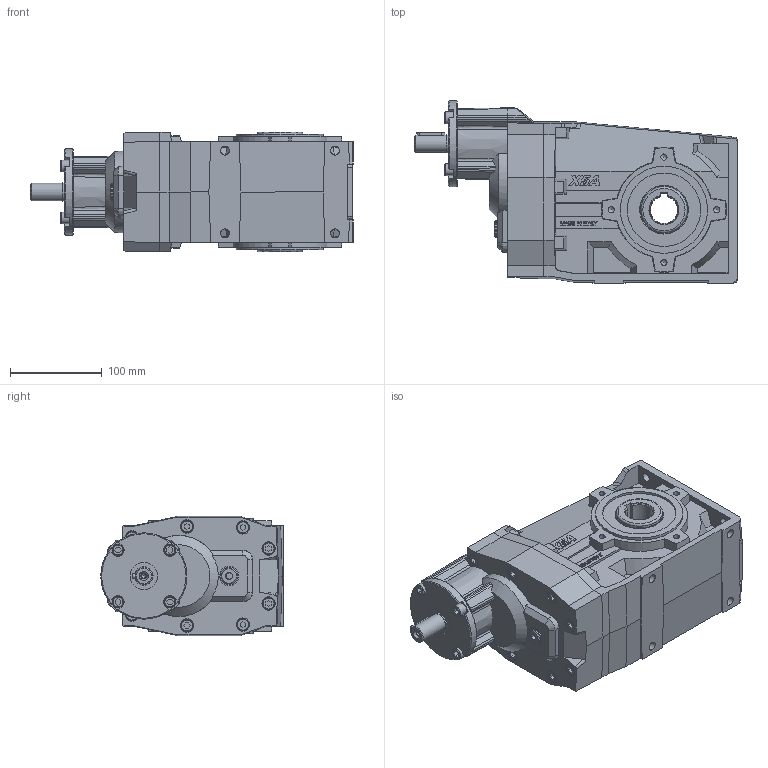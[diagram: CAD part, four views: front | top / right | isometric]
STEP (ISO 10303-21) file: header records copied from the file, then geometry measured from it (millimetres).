
FILE_DESCRIPTION( ( 'Unknown' ), '1' );
FILE_NAME( 'E:/services/configuratordownloads/customers/HYDROMEC/X/download/C031243042644E385FD5D7C4B757175/STEP/C031243042644E385FD5D7C4B757175.3d.stp', 'Unknown', ( 'Unknown' ), ( 'Unknown' ), 'PSStep 10.1', 'Unknown', ' ' );
FILE_SCHEMA( ( 'AUTOMOTIVE_DESIGN { 1 0 10303 214 1 1 1 1 }' ) );
Length unit declared in the file: millimetre
Products named in the file (1): X5A8800
Bounding box: 351.9 x 199 x 130 mm (x, y, z)
Volume: 4775262.3 mm3; surface area: 281767.2 mm2
Topology: 1 solids, 23 shells, 1080 faces, 2731 edges, 1786 vertices
Faces by surface type: plane 762, cylinder 134, cone 127, torus 24, bspline 17, extrusion 16
Full cylindrical faces by diameter (mm): 4.917 x9, 6 x8, 6.4 x1, 6.647 x16, 8.5 x4, 9.5 x8, 12 x8, 12.75 x4, 13 x8, 13.5 x1, 18 x1, 19 x2, 20 x1, 21 x1, 30 x1, 50.05 x2, 62 x1, 80 x2, 94 x1, 95 x2
Entity records: 41356 total; most frequent: CARTESIAN_POINT 8165, ORIENTED_EDGE 4852, DIRECTION 4830, EDGE_CURVE 2426, VECTOR 1720, LINE 1704, VERTEX_POINT 1698, AXIS2_PLACEMENT_3D 1555
